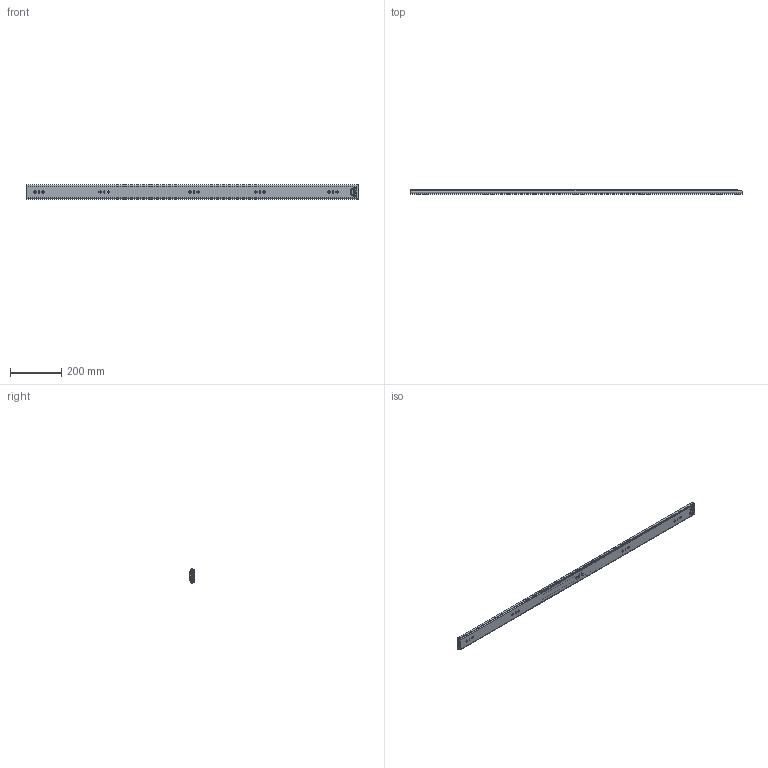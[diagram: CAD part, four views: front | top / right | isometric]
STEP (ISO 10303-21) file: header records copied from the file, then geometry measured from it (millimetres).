
FILE_DESCRIPTION((''),'2;1');
FILE_NAME('1057-02-52_ASM','2023-12-23T',('jishu015'),(''),'PRO/ENGINEER BY PARAMETRIC TECHNOLOGY CORPORATION, 2010280','PRO/ENGINEER BY PARAMETRIC TECHNOLOGY CORPORATION, 2010280','');
FILE_SCHEMA(('CONFIG_CONTROL_DESIGN'));
Products named in the file (14): KP-57-01WEIKE-122_; 1057WEIJIAO_________________; 1057DAZHUJIA-14GE11__; 1057-5-6GANZHU_________________; 1057DAZHUJIA-14GE11___ASM; KP-57-01ZHONGGUI-22____; 57-ZHONGGUIDINWEIJIAN11______; KP-57-01ZHONGGUI-22_____ASM; 1057XIAOZHUJIA_________________; 1057XIAOZHUJIA-14GE22_____ASM; KP-57-01NEIGUI-1822__; 45TIEBACHA_________________; KP-57-01NEIGUI-1822___ASM; 1057-02-52_ASM
Assembly tree (208 placements, depth 3):
  1057-02-52_ASM
    KP-57-01WEIKE-122_
    1057WEIJIAO_________________
    1057DAZHUJIA-14GE11___ASM
      1057DAZHUJIA-14GE11__
      1057-5-6GANZHU_________________  x96
    KP-57-01ZHONGGUI-22_____ASM
      KP-57-01ZHONGGUI-22____
      57-ZHONGGUIDINWEIJIAN11______
    1057XIAOZHUJIA-14GE22_____ASM
      1057XIAOZHUJIA_________________
      1057-5-6GANZHU_________________  x100
    KP-57-01NEIGUI-1822___ASM
      KP-57-01NEIGUI-1822__
      45TIEBACHA_________________
Bounding box: 1300 x 19 x 57.67 mm (x, y, z)
Volume: 572708 mm3; surface area: 672414.7 mm2
Topology: 204 solids, 206 shells, 4783 faces, 13406 edges, 8240 vertices
Faces by surface type: plane 2203, cylinder 1984, sphere 400, bspline 104, cone 86, torus 6
Entity records: 147784 total; most frequent: CARTESIAN_POINT 29776, DIRECTION 25146, ORIENTED_EDGE 24444, EDGE_CURVE 12224, AXIS2_PLACEMENT_3D 8603, VECTOR 7940, LINE 7940, VERTEX_POINT 7850
